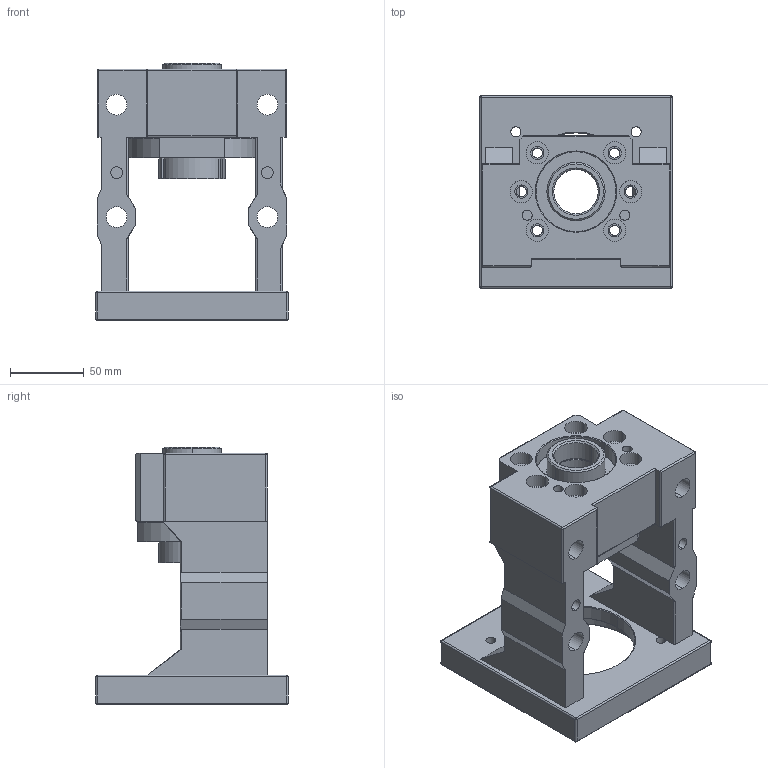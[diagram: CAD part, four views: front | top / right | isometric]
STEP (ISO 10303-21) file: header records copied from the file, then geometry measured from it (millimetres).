
FILE_DESCRIPTION((''),'2;1');
FILE_NAME('M100Y-SBK30-C__ASM','2019-09-26T',('ASUS'),(''),'PRO/ENGINEER BY PARAMETRIC TECHNOLOGY CORPORATION, 2010280','PRO/ENGINEER BY PARAMETRIC TECHNOLOGY CORPORATION, 2010280','');
FILE_SCHEMA(('CONFIG_CONTROL_DESIGN'));
Length unit declared in the file: millimetre
Products named in the file (6): NFM30X1_5________; M100Y-SBK30-C-03_______; PRT0001; PRT0002; M100Y-SBK30-C____________ASM; M100Y-SBK30-C__ASM
Assembly tree (6 placements, depth 3):
  M100Y-SBK30-C__ASM
    M100Y-SBK30-C____________ASM
      NFM30X1_5________
      M100Y-SBK30-C-03_______  x2
      PRT0001
      PRT0002
Bounding box: 130 x 130 x 174 mm (x, y, z)
Volume: 883487.8 mm3; surface area: 163108.9 mm2
Topology: 5 solids, 5 shells, 283 faces, 707 edges, 438 vertices
Faces by surface type: cylinder 145, plane 87, cone 33, sphere 12, torus 4, extrusion 2
Entity records: 8471 total; most frequent: CARTESIAN_POINT 1680, DIRECTION 1455, ORIENTED_EDGE 1334, EDGE_CURVE 667, AXIS2_PLACEMENT_3D 554, VERTEX_POINT 422, VECTOR 347, LINE 345
